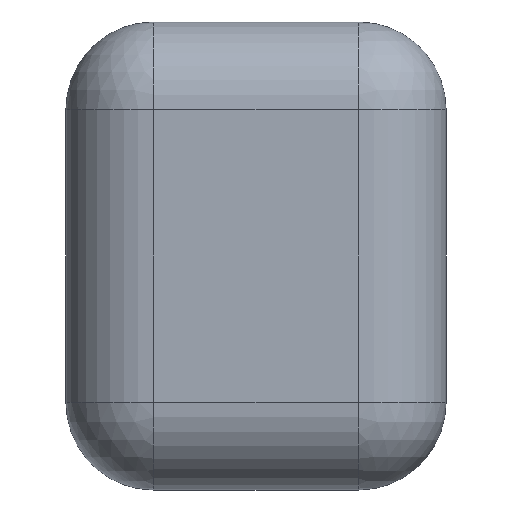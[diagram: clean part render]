
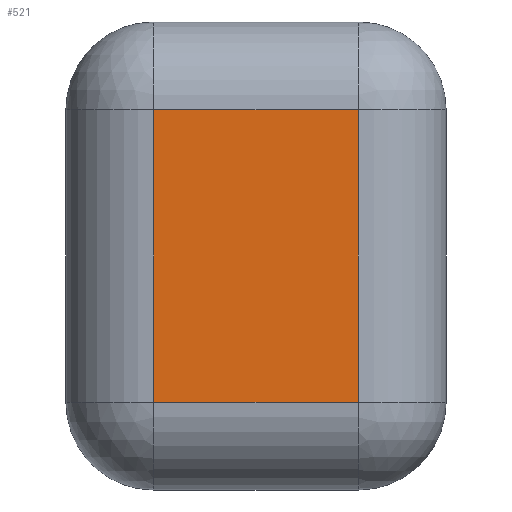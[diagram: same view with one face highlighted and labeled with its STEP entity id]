
A CAD part, front view. The second image highlights one B-rep face of the part: STEP entity #521.
In plain terms, the highlighted planar face has unit normal (0, -1, 0).
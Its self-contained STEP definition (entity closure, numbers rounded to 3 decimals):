
#44 = CYLINDRICAL_SURFACE('',#45,6.);
#45 = AXIS2_PLACEMENT_3D('',#46,#47,#48);
#46 = CARTESIAN_POINT('',(-7.,-6.,-16.));
#47 = DIRECTION('',(0.,0.,1.));
#48 = DIRECTION('',(-1.,-0.,0.));
#143 = VERTEX_POINT('',#144);
#144 = CARTESIAN_POINT('',(-7.,-12.,-10.));
#171 = EDGE_CURVE('',#143,#172,#174,.T.);
#172 = VERTEX_POINT('',#173);
#173 = CARTESIAN_POINT('',(-7.,-12.,10.));
#174 = SURFACE_CURVE('',#175,(#179,#186),.PCURVE_S1.);
#175 = LINE('',#176,#177);
#176 = CARTESIAN_POINT('',(-7.,-12.,-16.));
#177 = VECTOR('',#178,1.);
#178 = DIRECTION('',(0.,0.,1.));
#179 = PCURVE('',#44,#180);
#180 = DEFINITIONAL_REPRESENTATION('',(#181),#185);
#181 = LINE('',#182,#183);
#182 = CARTESIAN_POINT('',(1.571,0.));
#183 = VECTOR('',#184,1.);
#184 = DIRECTION('',(0.,1.));
#185 = ( GEOMETRIC_REPRESENTATION_CONTEXT(2) 
PARAMETRIC_REPRESENTATION_CONTEXT() REPRESENTATION_CONTEXT('2D SPACE',''
  ) );
#186 = PCURVE('',#187,#192);
#187 = PLANE('',#188);
#188 = AXIS2_PLACEMENT_3D('',#189,#190,#191);
#189 = CARTESIAN_POINT('',(-13.,-12.,-16.));
#190 = DIRECTION('',(-0.,1.,0.));
#191 = DIRECTION('',(0.,0.,1.));
#192 = DEFINITIONAL_REPRESENTATION('',(#193),#197);
#193 = LINE('',#194,#195);
#194 = CARTESIAN_POINT('',(0.,6.));
#195 = VECTOR('',#196,1.);
#196 = DIRECTION('',(1.,0.));
#197 = ( GEOMETRIC_REPRESENTATION_CONTEXT(2) 
PARAMETRIC_REPRESENTATION_CONTEXT() REPRESENTATION_CONTEXT('2D SPACE',''
  ) );
#480 = CYLINDRICAL_SURFACE('',#481,6.);
#481 = AXIS2_PLACEMENT_3D('',#482,#483,#484);
#482 = CARTESIAN_POINT('',(-13.,-6.,-10.));
#483 = DIRECTION('',(1.,0.,-0.));
#484 = DIRECTION('',(0.,-1.,0.));
#510 = CYLINDRICAL_SURFACE('',#511,6.);
#511 = AXIS2_PLACEMENT_3D('',#512,#513,#514);
#512 = CARTESIAN_POINT('',(-13.,-6.,10.));
#513 = DIRECTION('',(1.,0.,-0.));
#514 = DIRECTION('',(0.,-1.,0.));
#521 = ADVANCED_FACE('',(#522),#187,.F.);
#522 = FACE_BOUND('',#523,.F.);
#523 = EDGE_LOOP('',(#524,#525,#548,#576));
#524 = ORIENTED_EDGE('',*,*,#171,.T.);
#525 = ORIENTED_EDGE('',*,*,#526,.T.);
#526 = EDGE_CURVE('',#172,#527,#529,.T.);
#527 = VERTEX_POINT('',#528);
#528 = CARTESIAN_POINT('',(7.,-12.,10.));
#529 = SURFACE_CURVE('',#530,(#534,#541),.PCURVE_S1.);
#530 = LINE('',#531,#532);
#531 = CARTESIAN_POINT('',(-13.,-12.,10.));
#532 = VECTOR('',#533,1.);
#533 = DIRECTION('',(1.,0.,-0.));
#534 = PCURVE('',#187,#535);
#535 = DEFINITIONAL_REPRESENTATION('',(#536),#540);
#536 = LINE('',#537,#538);
#537 = CARTESIAN_POINT('',(26.,0.));
#538 = VECTOR('',#539,1.);
#539 = DIRECTION('',(0.,1.));
#540 = ( GEOMETRIC_REPRESENTATION_CONTEXT(2) 
PARAMETRIC_REPRESENTATION_CONTEXT() REPRESENTATION_CONTEXT('2D SPACE',''
  ) );
#541 = PCURVE('',#510,#542);
#542 = DEFINITIONAL_REPRESENTATION('',(#543),#547);
#543 = LINE('',#544,#545);
#544 = CARTESIAN_POINT('',(-0.,0.));
#545 = VECTOR('',#546,1.);
#546 = DIRECTION('',(-0.,1.));
#547 = ( GEOMETRIC_REPRESENTATION_CONTEXT(2) 
PARAMETRIC_REPRESENTATION_CONTEXT() REPRESENTATION_CONTEXT('2D SPACE',''
  ) );
#548 = ORIENTED_EDGE('',*,*,#549,.F.);
#549 = EDGE_CURVE('',#550,#527,#552,.T.);
#550 = VERTEX_POINT('',#551);
#551 = CARTESIAN_POINT('',(7.,-12.,-10.));
#552 = SURFACE_CURVE('',#553,(#557,#564),.PCURVE_S1.);
#553 = LINE('',#554,#555);
#554 = CARTESIAN_POINT('',(7.,-12.,-16.));
#555 = VECTOR('',#556,1.);
#556 = DIRECTION('',(0.,0.,1.));
#557 = PCURVE('',#187,#558);
#558 = DEFINITIONAL_REPRESENTATION('',(#559),#563);
#559 = LINE('',#560,#561);
#560 = CARTESIAN_POINT('',(0.,20.));
#561 = VECTOR('',#562,1.);
#562 = DIRECTION('',(1.,0.));
#563 = ( GEOMETRIC_REPRESENTATION_CONTEXT(2) 
PARAMETRIC_REPRESENTATION_CONTEXT() REPRESENTATION_CONTEXT('2D SPACE',''
  ) );
#564 = PCURVE('',#565,#570);
#565 = CYLINDRICAL_SURFACE('',#566,6.);
#566 = AXIS2_PLACEMENT_3D('',#567,#568,#569);
#567 = CARTESIAN_POINT('',(7.,-6.,-16.));
#568 = DIRECTION('',(0.,0.,1.));
#569 = DIRECTION('',(1.,0.,-0.));
#570 = DEFINITIONAL_REPRESENTATION('',(#571),#575);
#571 = LINE('',#572,#573);
#572 = CARTESIAN_POINT('',(-1.571,0.));
#573 = VECTOR('',#574,1.);
#574 = DIRECTION('',(-0.,1.));
#575 = ( GEOMETRIC_REPRESENTATION_CONTEXT(2) 
PARAMETRIC_REPRESENTATION_CONTEXT() REPRESENTATION_CONTEXT('2D SPACE',''
  ) );
#576 = ORIENTED_EDGE('',*,*,#577,.F.);
#577 = EDGE_CURVE('',#143,#550,#578,.T.);
#578 = SURFACE_CURVE('',#579,(#583,#590),.PCURVE_S1.);
#579 = LINE('',#580,#581);
#580 = CARTESIAN_POINT('',(-13.,-12.,-10.));
#581 = VECTOR('',#582,1.);
#582 = DIRECTION('',(1.,0.,-0.));
#583 = PCURVE('',#187,#584);
#584 = DEFINITIONAL_REPRESENTATION('',(#585),#589);
#585 = LINE('',#586,#587);
#586 = CARTESIAN_POINT('',(6.,0.));
#587 = VECTOR('',#588,1.);
#588 = DIRECTION('',(0.,1.));
#589 = ( GEOMETRIC_REPRESENTATION_CONTEXT(2) 
PARAMETRIC_REPRESENTATION_CONTEXT() REPRESENTATION_CONTEXT('2D SPACE',''
  ) );
#590 = PCURVE('',#480,#591);
#591 = DEFINITIONAL_REPRESENTATION('',(#592),#596);
#592 = LINE('',#593,#594);
#593 = CARTESIAN_POINT('',(0.,0.));
#594 = VECTOR('',#595,1.);
#595 = DIRECTION('',(0.,1.));
#596 = ( GEOMETRIC_REPRESENTATION_CONTEXT(2) 
PARAMETRIC_REPRESENTATION_CONTEXT() REPRESENTATION_CONTEXT('2D SPACE',''
  ) );
